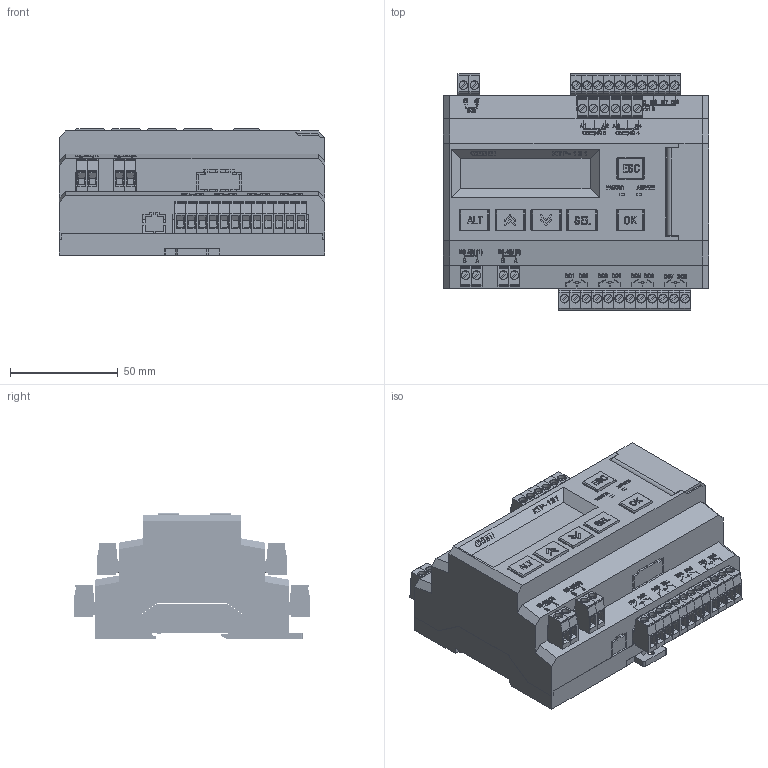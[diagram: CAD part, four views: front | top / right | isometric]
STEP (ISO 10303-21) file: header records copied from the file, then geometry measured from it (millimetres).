
FILE_DESCRIPTION (( 'STEP AP214' ), '1' );
FILE_NAME ('3D Ìîäåëü ÊÒÐ-121.24.STEP', '2021-07-13T09:02:19', ( '' ), ( '' ), 'SwSTEP 2.0', 'SolidWorks 2015', '' );
FILE_SCHEMA (( 'AUTOMOTIVE_DESIGN' ));
Length unit declared in the file: millimetre
Products named in the file (11): 抔樦憵 2-5,08; Ðàçúåì øòåêåðíûé íà ïëàòó 5.08; Êðûøêà; miniUSB; Êíîïêè ÊÒÐ; 扻豵鵨 弅胙瞂贂; Êîðïóñ ÊÒÐ_îñí; 抔樦憵 2edgk-5,08-1p; Ðàçúåì øòåêåðíûé 2-5.08; 婰膲僗闉 晊芡; 3D Ìîäåëü ÊÒÐ-121.24
Assembly tree (45 placements, depth 3):
  3D Ìîäåëü ÊÒÐ-121.24
    扻豵鵨 弅胙瞂贂
    Êîðïóñ ÊÒÐ_îñí
    Êíîïêè ÊÒÐ
    miniUSB
    Êðûøêà
    婰膲僗闉 晊芡
    Ðàçúåì øòåêåðíûé 2-5.08  x17
      Ðàçúåì øòåêåðíûé íà ïëàòó 5.08
    抔樦憵 2-5,08  x16
      抔樦憵 2edgk-5,08-1p
    抔樦憵 2edgk-5,08-1p  x2
Bounding box: 123 x 109.7 x 58.5 mm (x, y, z)
Volume: 212688.1 mm3; surface area: 140174.2 mm2
Topology: 75 solids, 75 shells, 12842 faces, 35857 edges, 23754 vertices
Faces by surface type: plane 10655, bspline 1341, cylinder 812, cone 34
Entity records: 415271 total; most frequent: CARTESIAN_POINT 74237, ORIENTED_EDGE 55346, DIRECTION 41910, EDGE_CURVE 27673, VECTOR 24470, LINE 24470, VERTEX_POINT 18441, EDGE_LOOP 9930
